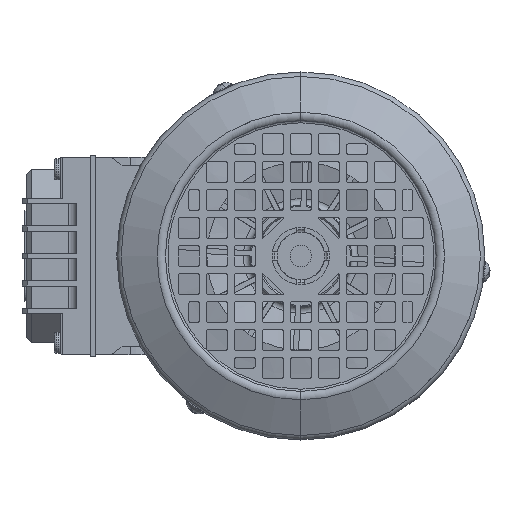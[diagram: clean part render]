
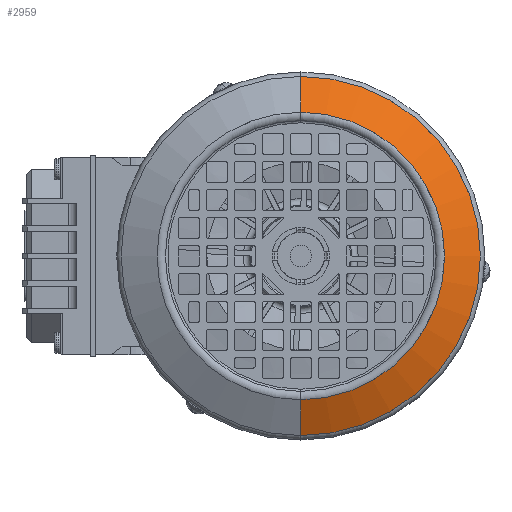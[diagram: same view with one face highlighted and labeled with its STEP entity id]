
A CAD part, left-side view. The second image highlights one B-rep face of the part: STEP entity #2959.
In plain terms, the highlighted conical face has half-angle 64 degrees and reference radius 67.315 mm.
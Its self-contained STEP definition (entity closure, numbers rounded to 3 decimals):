
#682 = DIRECTION ( 'NONE',  ( -1., 0., 0. ) ) ;
#2959 = ADVANCED_FACE ( 'NONE', ( #12836 ), #91113, .T. ) ;
#3102 = ORIENTED_EDGE ( 'NONE', *, *, #3129, .T. ) ;
#3129 = EDGE_CURVE ( 'NONE', #57994, #11957, #60547, .T. ) ;
#9150 = AXIS2_PLACEMENT_3D ( 'NONE', #42054, #41715, #96658 ) ;
#11957 = VERTEX_POINT ( 'NONE', #13359 ) ;
#12836 = FACE_OUTER_BOUND ( 'NONE', #96523, .T. ) ;
#13359 = CARTESIAN_POINT ( 'NONE',  ( -67.315, 6.802, 0. ) ) ;
#20904 = CARTESIAN_POINT ( 'NONE',  ( 67.315, 6.802, 0. ) ) ;
#22285 = EDGE_CURVE ( 'NONE', #64307, #11957, #78888, .T. ) ;
#22300 = CARTESIAN_POINT ( 'NONE',  ( 0., 6.802, 0. ) ) ;
#30180 = DIRECTION ( 'NONE',  ( -1., 0., 0. ) ) ;
#30617 = CARTESIAN_POINT ( 'NONE',  ( -53.887, 0.253, 0. ) ) ;
#40267 = ORIENTED_EDGE ( 'NONE', *, *, #22285, .F. ) ;
#41715 = DIRECTION ( 'NONE',  ( 0., 1., 0. ) ) ;
#41848 = CIRCLE ( 'NONE', #81827, 53.887 ) ;
#42054 = CARTESIAN_POINT ( 'NONE',  ( 0., 6.802, 0. ) ) ;
#43671 = VERTEX_POINT ( 'NONE', #98378 ) ;
#47561 = DIRECTION ( 'NONE',  ( 0., 1., 0. ) ) ;
#52282 = DIRECTION ( 'NONE',  ( -0.899, 0.438, 0. ) ) ;
#54688 = DIRECTION ( 'NONE',  ( 0.899, 0.438, 0. ) ) ;
#57994 = VERTEX_POINT ( 'NONE', #30617 ) ;
#60547 = LINE ( 'NONE', #83637, #81267 ) ;
#64307 = VERTEX_POINT ( 'NONE', #20904 ) ;
#68311 = ORIENTED_EDGE ( 'NONE', *, *, #82923, .F. ) ;
#74240 = EDGE_CURVE ( 'NONE', #43671, #57994, #41848, .T. ) ;
#77003 = DIRECTION ( 'NONE',  ( 0., 1., 0. ) ) ;
#78888 = CIRCLE ( 'NONE', #100897, 67.315 ) ;
#79756 = VECTOR ( 'NONE', #54688, 1000. ) ;
#81267 = VECTOR ( 'NONE', #52282, 1000. ) ;
#81827 = AXIS2_PLACEMENT_3D ( 'NONE', #94331, #47561, #682 ) ;
#82923 = EDGE_CURVE ( 'NONE', #43671, #64307, #100591, .T. ) ;
#83637 = CARTESIAN_POINT ( 'NONE',  ( -67.315, 6.802, 0. ) ) ;
#91113 = CONICAL_SURFACE ( 'NONE', #9150, 67.315, 1.117 ) ;
#93605 = CARTESIAN_POINT ( 'NONE',  ( 67.315, 6.802, 0. ) ) ;
#94331 = CARTESIAN_POINT ( 'NONE',  ( 0., 0.253, 0. ) ) ;
#96523 = EDGE_LOOP ( 'NONE', ( #68311, #97023, #3102, #40267 ) ) ;
#96658 = DIRECTION ( 'NONE',  ( -1., 0., 0. ) ) ;
#97023 = ORIENTED_EDGE ( 'NONE', *, *, #74240, .T. ) ;
#98378 = CARTESIAN_POINT ( 'NONE',  ( 53.887, 0.253, 0. ) ) ;
#100591 = LINE ( 'NONE', #93605, #79756 ) ;
#100897 = AXIS2_PLACEMENT_3D ( 'NONE', #22300, #77003, #30180 ) ;
